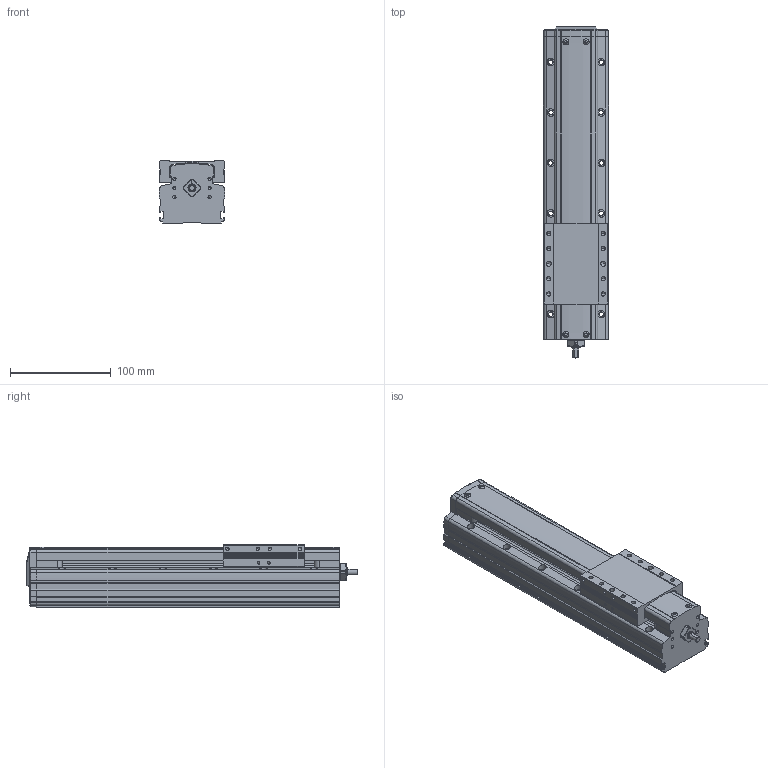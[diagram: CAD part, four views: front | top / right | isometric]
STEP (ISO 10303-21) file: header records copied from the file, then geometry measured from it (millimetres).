
FILE_DESCRIPTION(('STEP AP214'),'1');
FILE_NAME('Z:/Web/3D/PSA65/STP/PSA65-150 (3D)/PSA65ㅁㅁ-150.stp','2014-06-25T03:06:52',(' '),(' '),'Spatial InterOp 3D',' ',' ');
FILE_SCHEMA(('automotive_design'));
Length unit declared in the file: millimetre
Products named in the file (44): SLIDE; RRCV-PA060; 1; 2; 3; 4; 5; 6; 7; 8; 9; 10; 11; 12; 13; 14; 15; 16; 17; 18; 19; 20; 21; 22; 23; 24; 25; 26; 27; 28; 29; 30; 31; 스크루 : Round - M3.0 x 8.0; RN8 x 0.75; SHAFT-SAN65; BASE; 스크루 : Round - M3.0 x 6.0
Bounding box: 65 x 329.3 x 62 mm (x, y, z)
Volume: 985116.7 mm3; surface area: 147164.2 mm2
Topology: 44 solids, 44 shells, 1590 faces, 4241 edges, 2711 vertices
Faces by surface type: plane 983, cylinder 413, cone 141, sphere 22, torus 16, bspline 15
Entity records: 63219 total; most frequent: CARTESIAN_POINT 9953, DIRECTION 8326, ORIENTED_EDGE 8290, EDGE_CURVE 4145, LINE 3038, VECTOR 3038, VERTEX_POINT 2711, AXIS2_PLACEMENT_3D 2644
